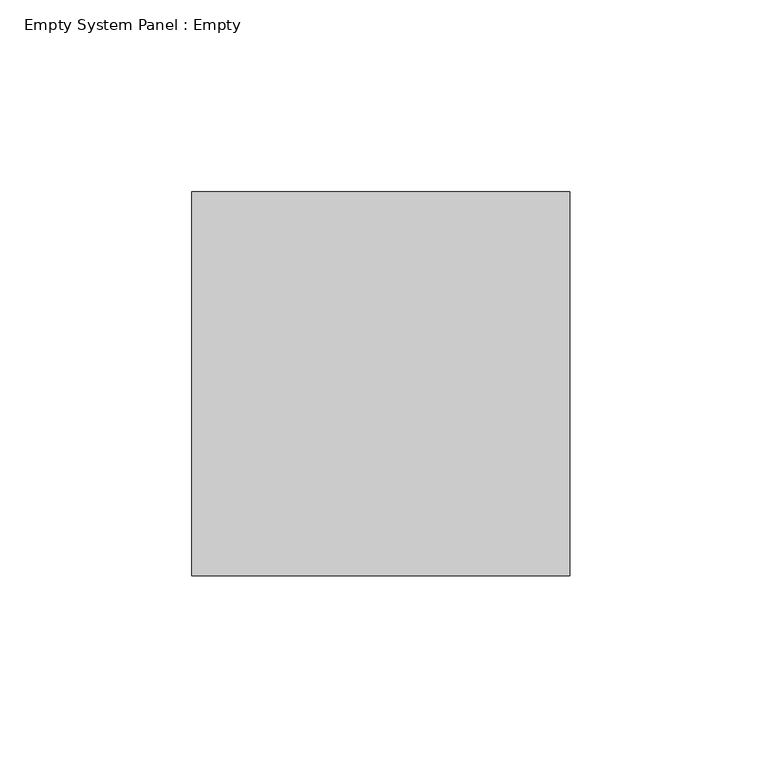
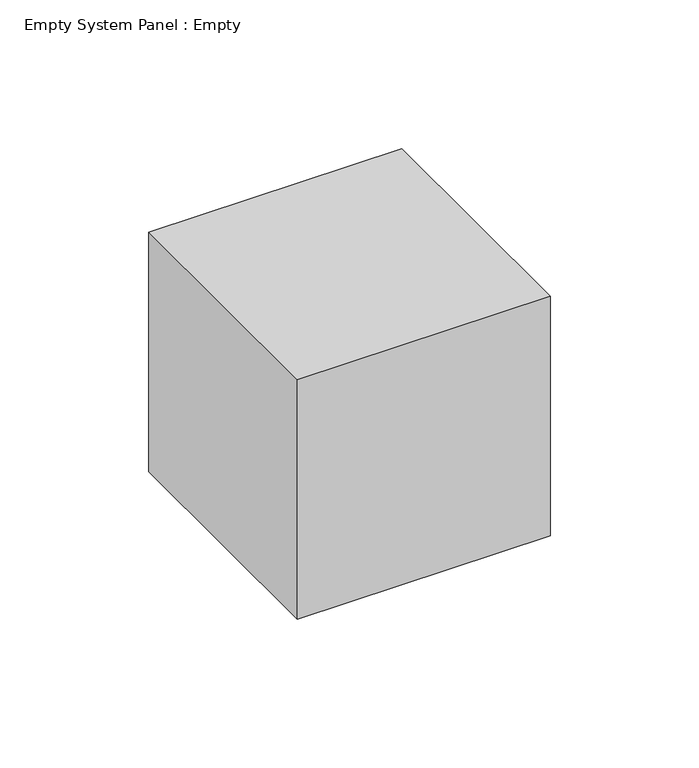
"""IFC4 building model written with IfcOpenShell, lengths in millimetres: plate geometry, Empty System Panel : Empty."""

from ifc_helpers import new_model, si_unit, origin, origin_with_axes, place, context, project, spatial, polyline, outline, extrude, source, transform, mapped, element, save


def empty_system_panel_empty_d169f295(model_context):
    return source(origin(), model_context, "Body", "SweptSolid", [
        extrude(outline(polyline([(49.1878048, 50.0), (-49.1878048, 50.0), (-49.1878048, 150.0), (49.1878048, 150.0), (49.1878048, 50.0)])), origin_with_axes(), (0.0, 0.0, 1.0), 98.37561),
    ])


if __name__ == "__main__":
    model = new_model("IFC4")
    model_context = context("Model", 3, world=origin())
    ifc_project = project(units=[si_unit("LENGTHUNIT", "METRE", prefix="MILLI")], contexts=[model_context])
    site = spatial("IfcSite", under=ifc_project)
    building = spatial("IfcBuilding", under=site)
    placement = place(None, origin())
    empty_system_panel_empty_shape = empty_system_panel_empty_d169f295(model_context)
    element("IfcPlate", 1, ObjectType="Empty System Panel : Empty", at=placement, inside=building, context=model_context, shape_type="MappedRepresentation", body=[
        mapped(empty_system_panel_empty_shape, transform((0.0, 0.0, 0.0), x_axis=(1.0, 0.0, 0.0), y_axis=(0.0, 1.0, 0.0), z_axis=(0.0, 0.0, 1.0))),
    ])
    save(model, "model.ifc")
